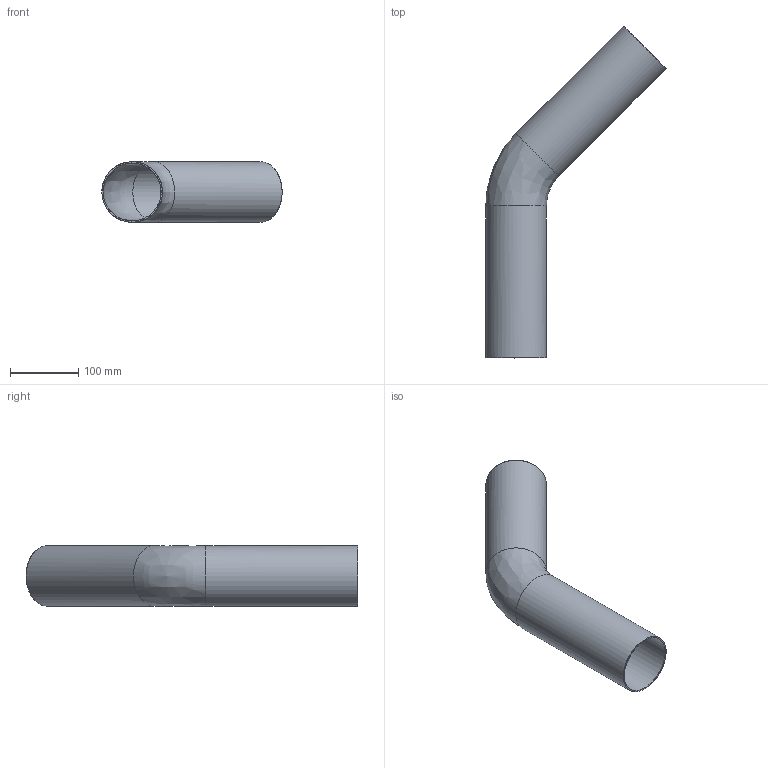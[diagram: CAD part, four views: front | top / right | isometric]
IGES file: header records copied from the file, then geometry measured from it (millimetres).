
Global section: file name: C73AL; native system: Autodesk Inventor 2023; preprocessor: unknown; author: lvalentini; date: 20230921.120731; units: millimetre
Bounding box: 264.6 x 487.15 x 88.9 mm (x, y, z)
Volume: 289762.9 mm3; surface area: 290430.6 mm2
Topology: 1 solids, 1 shells, 12 faces, 26 edges, 16 vertices
Faces by surface type: bspline 12
